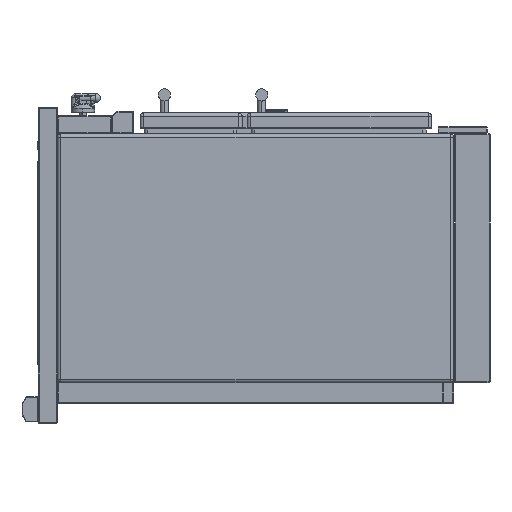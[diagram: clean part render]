
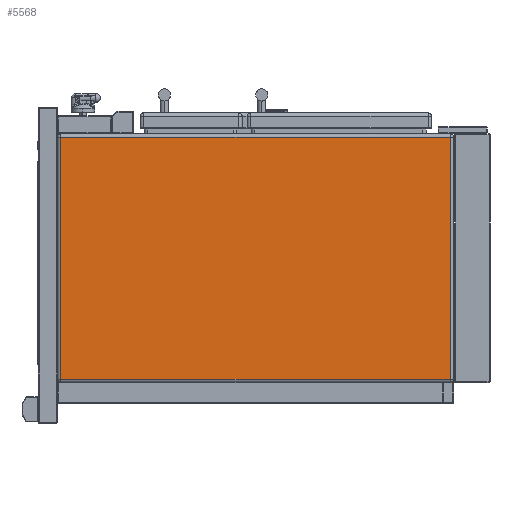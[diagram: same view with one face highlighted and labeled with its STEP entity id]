
A CAD part, left-side view. The second image highlights one B-rep face of the part: STEP entity #5568.
In plain terms, the highlighted planar face has unit normal (-1, 0, 0).
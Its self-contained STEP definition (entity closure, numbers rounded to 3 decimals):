
#1135=DIRECTION('',(0.,1.,0.));
#1136=VECTOR('',#1135,801.);
#1137=CARTESIAN_POINT('',(-700.,82.,249.));
#1138=LINE('',#1137,#1136);
#1139=DIRECTION('',(0.,0.,1.));
#1140=VECTOR('',#1139,498.);
#1141=CARTESIAN_POINT('',(-700.,82.,-249.));
#1142=LINE('',#1141,#1140);
#1143=DIRECTION('',(0.,-1.,0.));
#1144=VECTOR('',#1143,801.);
#1145=CARTESIAN_POINT('',(-700.,883.,-249.));
#1146=LINE('',#1145,#1144);
#1147=DIRECTION('',(0.,0.,-1.));
#1148=VECTOR('',#1147,498.);
#1149=CARTESIAN_POINT('',(-700.,883.,249.));
#1150=LINE('',#1149,#1148);
#3396=CARTESIAN_POINT('',(-700.,82.,249.));
#3397=CARTESIAN_POINT('',(-700.,883.,249.));
#3398=VERTEX_POINT('',#3396);
#3399=VERTEX_POINT('',#3397);
#3400=CARTESIAN_POINT('',(-700.,82.,-249.));
#3401=VERTEX_POINT('',#3400);
#3424=CARTESIAN_POINT('',(-700.,883.,-249.));
#3425=VERTEX_POINT('',#3424);
#5554=CARTESIAN_POINT('',(-700.,0.,0.));
#5555=DIRECTION('',(1.,0.,0.));
#5556=DIRECTION('',(0.,0.,-1.));
#5557=AXIS2_PLACEMENT_3D('',#5554,#5555,#5556);
#5558=PLANE('',#5557);
#5560=ORIENTED_EDGE('',*,*,#5559,.F.);
#5562=ORIENTED_EDGE('',*,*,#5561,.F.);
#5563=ORIENTED_EDGE('',*,*,#5545,.F.);
#5565=ORIENTED_EDGE('',*,*,#5564,.F.);
#5566=EDGE_LOOP('',(#5560,#5562,#5563,#5565));
#5567=FACE_OUTER_BOUND('',#5566,.F.);
#5545=EDGE_CURVE('',#3425,#3401,#1146,.T.);
#5559=EDGE_CURVE('',#3398,#3399,#1138,.T.);
#5561=EDGE_CURVE('',#3401,#3398,#1142,.T.);
#5564=EDGE_CURVE('',#3399,#3425,#1150,.T.);
#5568=ADVANCED_FACE('',(#5567),#5558,.F.);
